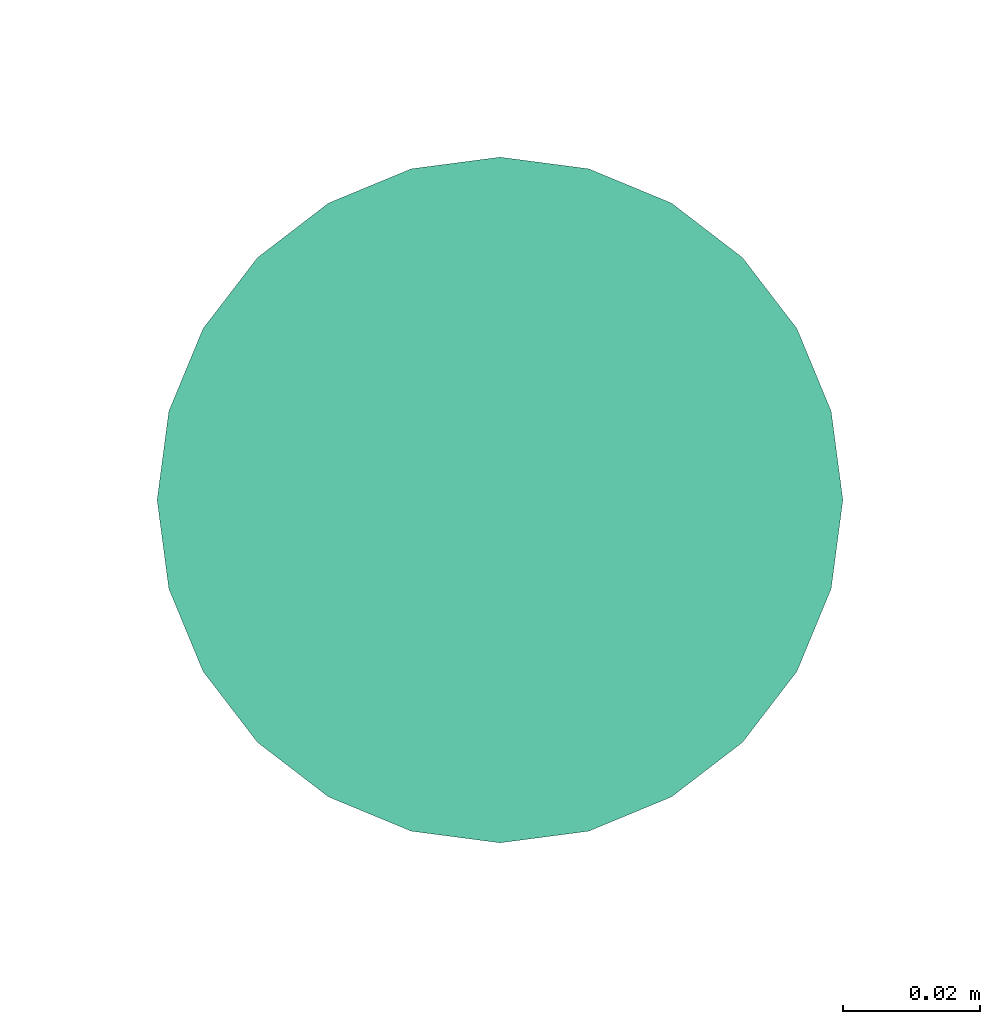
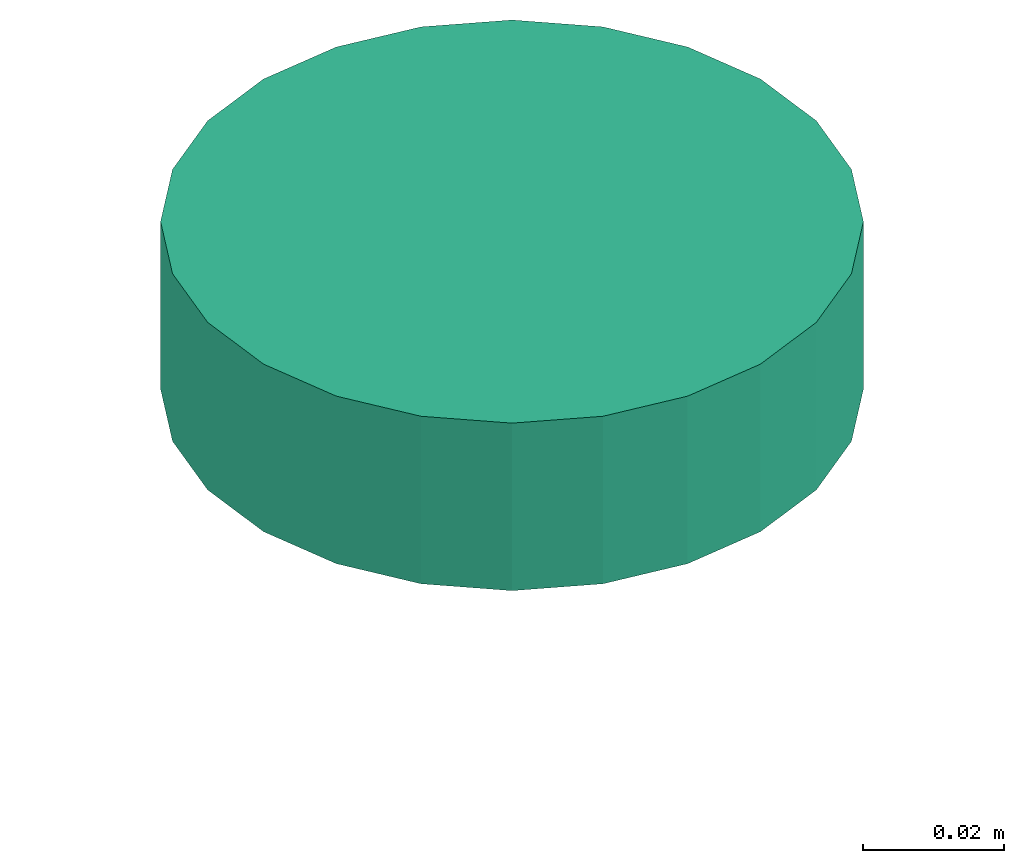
# One storey, part 24 of 51: 1 distribution control element.
"""IFC2X3 building model written with IfcOpenShell, lengths in millimetres."""

from ifc_helpers import new_model, entity, si_unit, converted_unit, derived_unit, direction, frame, origin_with_axes, place, context, subcontext, project, spatial, open_shell, surface_model, source, transform, mapped, type_object, element, save


model = new_model("IFC2X3")

# Units and contexts
model_context = context("Model", 3, precision=0.01, world=frame((0.0, 4.29681676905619e-09, 0.0)), true_north=direction((4.01073788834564e-13, 1.0)))
plan_context = context("Plan", 3, precision=0.01, world=frame((0.0, 4.29681676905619e-09, 0.0)), true_north=direction((4.01073788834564e-13, 1.0)))
body_context = subcontext(model_context, "Body", "Model", "MODEL_VIEW")
ifc_project = project(units=[converted_unit("PLANEANGLEUNIT", "DEGREE", entity("IfcPositiveLengthMeasure", 0.0174532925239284), si_unit("PLANEANGLEUNIT", "RADIAN"), dimensions=[0, 0, 0, 0, 0, 0, 0]), si_unit("AREAUNIT", "SQUARE_METRE"), si_unit("LENGTHUNIT", "METRE", prefix="MILLI"), si_unit("MASSUNIT", "GRAM", prefix="KILO"), si_unit("POWERUNIT", "WATT"), si_unit("PRESSUREUNIT", "PASCAL"), si_unit("FORCEUNIT", "NEWTON", prefix="KILO"), si_unit("ELECTRICVOLTAGEUNIT", "VOLT"), si_unit("ELECTRICCURRENTUNIT", "AMPERE"), si_unit("THERMODYNAMICTEMPERATUREUNIT", "DEGREE_CELSIUS"), si_unit("TIMEUNIT", "SECOND"), si_unit("VOLUMEUNIT", "CUBIC_METRE"), derived_unit("LINEARVELOCITYUNIT", [(si_unit("LENGTHUNIT", "METRE"), 1), (si_unit("TIMEUNIT", "SECOND"), -1)]), derived_unit("VOLUMETRICFLOWRATEUNIT", [(si_unit("VOLUMEUNIT", "CUBIC_METRE"), 1), (si_unit("TIMEUNIT", "SECOND"), -1)]), derived_unit("THERMALTRANSMITTANCEUNIT", [(si_unit("POWERUNIT", "WATT"), 1), (si_unit("THERMODYNAMICTEMPERATUREUNIT", "KELVIN"), -1), (si_unit("AREAUNIT", "SQUARE_METRE"), -1)]), derived_unit("SOUNDPRESSUREUNIT", [(si_unit("PRESSUREUNIT", "PASCAL"), 1)])], contexts=[model_context, plan_context])

# Site, building, storey
site_placement = place(None, frame((0.0, -4.29681676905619e-09, 0.0), z_axis=(0.0, 0.0, 1.0), x_axis=(1.0, 0.0, 0.0)))
site = spatial("IfcSite", under=ifc_project, at=site_placement, Name="ENGM", CompositionType="ELEMENT")
building_placement = place(site_placement, frame((0.0, 4.29681676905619e-09, 0.0), z_axis=(0.0, 0.0, 1.0), x_axis=(1.0, 0.0, 0.0)))
building = spatial("IfcBuilding", under=site, at=building_placement, Name="TI", CompositionType="ELEMENT")
storey_placement = place(building_placement, frame((0.0, 0.0, 210900.0), z_axis=(0.0, 0.0, 1.0), x_axis=(1.0, 0.0, 0.0)))
storey = spatial("IfcBuildingStorey", under=building, at=storey_placement, Name="Nivå F", CompositionType="ELEMENT", Elevation=210900.0)

# Distribution control element
alarm_type = type_object("IfcAlarmType", Name="Brannalarm Røykdetektor", PredefinedType="NOTDEFINED")
shared_shape = source(origin_with_axes(), body_context, "Body", "SurfaceModel", [
    surface_model("IfcShellBasedSurfaceModel", [(-25.0, 43.30127, -28.9), (-35.35534, 35.35534, -28.9), (-18.0, 31.17691, -28.9), (-25.45584, 25.45584, -28.9), (-9.31749, 34.77333, -28.9), (-12.94095, 48.29629, -28.9), (0.0, 36.0, -28.9), (0.0, 50.0, -28.9), (-34.77333, 9.31749, -28.9), (-43.30127, 25.0, -28.9), (-48.29629, 12.94095, -28.9), (-36.0, 0.0, -28.9), (-50.0, 0.0, -28.9), (-31.17691, 18.0, -28.9), (9.31749, 34.77333, -28.9), (12.94095, 48.29629, -28.9), (18.0, 31.17691, -28.9), (35.35534, 35.35534, -28.9), (25.0, 43.30127, -28.9), (25.45584, 25.45584, -28.9), (31.17691, 18.0, -28.9), (34.77333, 9.31749, -28.9), (43.30127, 25.0, -28.9), (48.29629, 12.94095, -28.9), (36.0, 0.0, -28.9), (50.0, 0.0, -28.9), (-34.77333, -9.31749, -28.9), (-48.29629, -12.94095, -28.9), (-31.17691, -18.0, -28.9), (-43.30127, -25.0, -28.9), (-25.45584, -25.45584, -28.9), (-35.35534, -35.35534, -28.9), (-18.0, -31.17691, -28.9), (-25.0, -43.30127, -28.9), (-9.31749, -34.77333, -28.9), (-12.94095, -48.29629, -28.9), (0.0, -36.0, -28.9), (0.0, -50.0, -28.9), (43.30127, -25.0, -28.9), (31.17691, -18.0, -28.9), (35.35534, -35.35534, -28.9), (34.77333, -9.31749, -28.9), (48.29629, -12.94095, -28.9), (25.45584, -25.45584, -28.9), (9.31749, -34.77333, -28.9), (12.94095, -48.29629, -28.9), (18.0, -31.17691, -28.9), (25.0, -43.30127, -28.9), (-25.0, -43.30127, -29.1), (-35.35534, -35.35534, -29.1), (-18.0, -31.17691, -29.1), (-25.45584, -25.45584, -29.1), (-9.31749, -34.77333, -29.1), (-12.94095, -48.29629, -29.1), (0.0, -36.0, -29.1), (0.0, -50.0, -29.1), (-34.77333, -9.31749, -29.1), (-43.30127, -25.0, -29.1), (-48.29629, -12.94095, -29.1), (-36.0, 0.0, -29.1), (-50.0, 0.0, -29.1), (-31.17691, -18.0, -29.1), (9.31749, -34.77333, -29.1), (12.94095, -48.29629, -29.1), (18.0, -31.17691, -29.1), (35.35534, -35.35534, -29.1), (25.0, -43.30127, -29.1), (25.45584, -25.45584, -29.1), (31.17691, -18.0, -29.1), (34.77333, -9.31749, -29.1), (43.30127, -25.0, -29.1), (48.29629, -12.94095, -29.1), (36.0, 0.0, -29.1), (50.0, 0.0, -29.1), (-34.77333, 9.31749, -29.1), (-48.29629, 12.94095, -29.1), (-31.17691, 18.0, -29.1), (-43.30127, 25.0, -29.1), (-25.45584, 25.45584, -29.1), (-35.35534, 35.35534, -29.1), (-18.0, 31.17691, -29.1), (-25.0, 43.30127, -29.1), (-9.31749, 34.77333, -29.1), (-12.94095, 48.29629, -29.1), (0.0, 36.0, -29.1), (0.0, 50.0, -29.1), (43.30127, 25.0, -29.1), (31.17691, 18.0, -29.1), (35.35534, 35.35534, -29.1), (34.77333, 9.31749, -29.1), (48.29629, 12.94095, -29.1), (25.45584, 25.45584, -29.1), (9.31749, 34.77333, -29.1), (12.94095, 48.29629, -29.1), (18.0, 31.17691, -29.1), (25.0, 43.30127, -29.1), (6.47048, -24.14815, -44.9), (12.5, -21.65064, -44.9), (17.67767, -17.67767, -44.9), (24.14815, -6.47048, -44.9), (-24.14815, -6.47048, -44.9), (21.65064, -12.5, -44.9), (-21.65064, 12.5, -44.9), (0.0, -25.0, -44.9), (-12.5, -21.65064, -44.9), (-6.47048, -24.14815, -44.9), (-17.67767, -17.67767, -44.9), (-21.65064, -12.5, -44.9), (25.0, 0.0, -44.9), (24.14815, 6.47048, -44.9), (21.65064, 12.5, -44.9), (17.67767, 17.67767, -44.9), (12.5, 21.65064, -44.9), (6.47048, 24.14815, -44.9), (0.0, 25.0, -44.9), (-25.0, 0.0, -44.9), (-24.14815, 6.47048, -44.9), (-12.5, 21.65064, -44.9), (-17.67767, 17.67767, -44.9), (-6.47048, 24.14815, -44.9), (0.0, 25.0, -45.1), (6.47048, 24.14815, -45.1), (12.5, 21.65064, -45.1), (-21.65064, 12.5, -45.1), (17.67767, 17.67767, -45.1), (21.65064, 12.5, -45.1), (24.14815, 6.47048, -45.1), (-12.5, 21.65064, -45.1), (-17.67767, 17.67767, -45.1), (-6.47048, 24.14815, -45.1), (-25.0, 0.0, -45.1), (-24.14815, 6.47048, -45.1), (-24.14815, -6.47048, -45.1), (24.14815, -6.47048, -45.1), (6.47048, -24.14815, -45.1), (21.65064, -12.5, -45.1), (17.67767, -17.67767, -45.1), (12.5, -21.65064, -45.1), (-12.5, -21.65064, -45.1), (-17.67767, -17.67767, -45.1), (-21.65064, -12.5, -45.1), (0.0, -25.0, -45.1), (-6.47048, -24.14815, -45.1), (25.0, 0.0, -45.1), (-1.46739, 34.60682, -29.0), (0.0, 34.8, -29.0), (0.0, 35.0, -29.0), (-34.60682, 1.46739, -29.0), (-35.0, 0.0, -29.0), (-34.8, 0.0, -29.0), (-17.5, 30.31089, -29.0), (-18.5742, 29.23669, -29.0), (-17.4, 30.13768, -29.0), (-24.60732, -24.60732, -29.0), (-18.5742, -29.23669, -29.0), (-29.23669, -18.5742, -29.0), (34.8, 0.0, -29.0), (34.60682, -1.46739, -29.0), (35.0, 0.0, -29.0), (17.4, 30.13768, -29.0), (17.5, 30.31089, -29.0), (16.03261, 30.70407, -29.0), (30.13768, 17.4, -29.0), (30.31089, 17.5, -29.0), (29.23669, 18.5742, -29.0), (34.60682, 1.46739, -29.0), (33.61422, -9.0069, -29.0), (30.70407, -16.03261, -29.0), (-33.61422, -9.0069, -29.0), (-30.70407, -16.03261, -29.0), (-34.60682, -1.46739, -29.0), (-30.13768, -17.4, -29.0), (-30.31089, -17.5, -29.0), (-17.5, -30.31089, -29.0), (-17.4, -30.13768, -29.0), (-1.46739, -34.60682, -29.0), (0.0, -35.0, -29.0), (0.0, -34.8, -29.0), (-16.03261, -30.70407, -29.0), (-9.0069, -33.61422, -29.0), (1.46739, -34.60682, -29.0), (30.13768, -17.4, -29.0), (29.23669, -18.5742, -29.0), (30.31089, -17.5, -29.0), (24.60732, -24.60732, -29.0), (18.5742, -29.23669, -29.0), (9.0069, -33.61422, -29.0), (16.03261, -30.70407, -29.0), (-30.13768, 17.4, -29.0), (-30.31089, 17.5, -29.0), (-30.70407, 16.03261, -29.0), (17.4, -30.13768, -29.0), (17.5, -30.31089, -29.0), (-33.61422, 9.0069, -29.0), (-29.23669, 18.5742, -29.0), (-24.60732, 24.60732, -29.0), (-16.03261, 30.70407, -29.0), (-9.0069, 33.61422, -29.0), (1.46739, 34.60682, -29.0), (9.0069, 33.61422, -29.0), (18.5742, 29.23669, -29.0), (24.60732, 24.60732, -29.0), (30.70407, 16.03261, -29.0), (33.61422, 9.0069, -29.0), (23.00389, 18.55381, -38.25), (14.9, 25.80756, -38.25), (21.07178, 21.07178, -38.25), (29.66376, 1.03484, -38.25), (30.0, 0.0, -38.25), (29.8, 0.0, -38.25), (24.27051, 17.63356, -38.25), (24.68215, 16.36666, -38.25), (10.52665, 27.61906, -38.25), (28.78459, 7.71281, -38.25), (-10.52665, 27.61906, -38.25), (-23.00389, 18.55381, -38.25), (-14.9, 25.80756, -38.25), (8.32335, 28.5317, -38.25), (0.0, 29.8, -38.25), (7.71281, 28.78459, -38.25), (-8.32335, 28.5317, -38.25), (-24.68215, 16.36666, -38.25), (-28.78459, 7.71281, -38.25), (-25.80756, 14.9, -38.25), (-9.27051, 28.5317, -38.25), (-29.66376, 1.03484, -38.25), (-29.8, 0.0, -38.25), (-30.0, 0.0, -38.25), (-28.78459, -7.71281, -38.25), (-24.68215, -16.36666, -38.25), (-25.80756, -14.9, -38.25), (29.66376, -1.03484, -38.25), (-7.71281, 28.78459, -38.25), (25.80756, 14.9, -38.25), (14.9, -25.80756, -38.25), (10.52665, -27.61906, -38.25), (23.00389, -18.55381, -38.25), (28.78459, -7.71281, -38.25), (24.68215, -16.36666, -38.25), (0.0, -29.8, -38.25), (-7.71281, -28.78459, -38.25), (-8.32335, -28.5317, -38.25), (8.32335, -28.5317, -38.25), (9.27051, 28.5317, -38.25), (-29.66376, -1.03484, -38.25), (21.07178, -21.07178, -38.25), (-23.00389, -18.55381, -38.25), (-24.27051, -17.63356, -38.25), (-9.27051, -28.5317, -38.25), (-10.52665, -27.61906, -38.25), (-21.07178, -21.07178, -38.25), (-14.9, -25.80756, -38.25), (9.27051, -28.5317, -38.25), (7.71281, -28.78459, -38.25), (24.27051, -17.63356, -38.25), (25.80756, -14.9, -38.25), (-21.07178, 21.07178, -38.25), (-24.27051, 17.63356, -38.25), (33.28589, -6.39713, -29.0), (27.13526, -8.81678, -38.25), (-16.77051, -23.08263, -38.25), (-23.90544, -23.90544, -29.0), (-27.13526, -8.81678, -38.25), (-33.28589, -6.39713, -29.0), (16.77051, -23.08263, -38.25), (8.75, -32.65544, -29.0), (0.0, -28.5317, -38.25), (23.90544, -23.90544, -29.0), (-8.75, -32.65544, -29.0), (-33.28589, 6.39713, -29.0), (-27.13526, 8.81678, -38.25), (16.77051, 23.08263, -38.25), (23.90544, 23.90544, -29.0), (27.13526, 8.81678, -38.25), (33.28589, 6.39713, -29.0), (-16.77051, 23.08263, -38.25), (-8.75, 32.65544, -29.0), (0.0, 28.5317, -38.25), (-23.90544, 23.90544, -29.0), (8.75, 32.65544, -29.0), (12.4, 21.47743, -45.0), (17.53625, 17.53625, -45.0), (19.07577, 15.5299, -45.0), (20.22543, 14.69463, -45.0), (20.59905, 13.54472, -45.0), (24.66376, 1.03484, -45.0), (25.0, 0.0, -45.0), (24.8, 0.0, -45.0), (8.88673, 22.93267, -45.0), (23.95496, 6.41871, -45.0), (-8.88673, 22.93267, -45.0), (-19.07577, 15.5299, -45.0), (-12.4, 21.47743, -45.0), (6.84976, 23.77641, -45.0), (0.0, 24.8, -45.0), (6.41871, 23.95496, -45.0), (-7.72542, 23.77641, -45.0), (-6.84976, 23.77641, -45.0), (-21.47743, 12.4, -45.0), (-20.59905, 13.54472, -45.0), (-23.95496, 6.41871, -45.0), (-25.0, 0.0, -45.0), (-24.66376, 1.03484, -45.0), (-24.8, 0.0, -45.0), (-23.95496, -6.41871, -45.0), (-20.59905, -13.54472, -45.0), (-21.47743, -12.4, -45.0), (-6.41871, 23.95496, -45.0), (24.66376, -1.03484, -45.0), (21.47743, 12.4, -45.0), (12.4, -21.47743, -45.0), (8.88673, -22.93267, -45.0), (19.07577, -15.5299, -45.0), (23.95496, -6.41871, -45.0), (20.59905, -13.54472, -45.0), (0.0, -24.8, -45.0), (-6.41871, -23.95496, -45.0), (-6.84976, -23.77641, -45.0), (7.72542, -23.77641, -45.0), (6.84976, -23.77641, -45.0), (7.72542, 23.77641, -45.0), (-24.66376, -1.03484, -45.0), (17.53625, -17.53625, -45.0), (-20.22543, -14.69463, -45.0), (-19.07577, -15.5299, -45.0), (-8.88673, -22.93267, -45.0), (-7.72542, -23.77641, -45.0), (-17.53625, -17.53625, -45.0), (-12.4, -21.47743, -45.0), (6.41871, -23.95496, -45.0), (20.22543, -14.69463, -45.0), (21.47743, -12.4, -45.0), (-17.53625, 17.53625, -45.0), (-20.22543, 14.69463, -45.0), (-22.61271, -7.34732, -45.0), (-13.97542, -19.23552, -45.0), (0.0, -23.77641, -45.0), (21.83768, -9.73262, -45.0), (13.97542, -19.23552, -45.0), (23.41884, -4.86631, -45.0), (22.61271, 7.34732, -45.0), (13.97542, 19.23552, -45.0), (0.0, 23.77641, -45.0), (-21.83768, 9.73262, -45.0), (-13.97542, 19.23552, -45.0), (-23.41884, 4.86631, -45.0), (12.94095, -48.29629, 0.0), (25.0, -43.30127, 0.0), (35.35534, -35.35534, 0.0), (48.29629, -12.94095, 0.0), (-48.29629, -12.94095, 0.0), (43.30127, -25.0, 0.0), (-43.30127, 25.0, 0.0), (0.0, -50.0, 0.0), (-25.0, -43.30127, 0.0), (-12.94095, -48.29629, 0.0), (-35.35534, -35.35534, 0.0), (-43.30127, -25.0, 0.0), (50.0, 0.0, 0.0), (48.29629, 12.94095, 0.0), (43.30127, 25.0, 0.0), (35.35534, 35.35534, 0.0), (25.0, 43.30127, 0.0), (12.94095, 48.29629, 0.0), (0.0, 50.0, 0.0), (-50.0, 0.0, 0.0), (-48.29629, 12.94095, 0.0), (-25.0, 43.30127, 0.0), (-35.35534, 35.35534, 0.0), (-12.94095, 48.29629, 0.0), (0.0, 50.0, -29.0), (12.94095, 48.29629, -29.0), (25.0, 43.30127, -29.0), (-43.30127, 25.0, -29.0), (35.35534, 35.35534, -29.0), (43.30127, 25.0, -29.0), (48.29629, 12.94095, -29.0), (-25.0, 43.30127, -29.0), (-35.35534, 35.35534, -29.0), (-12.94095, 48.29629, -29.0), (-50.0, 0.0, -29.0), (-48.29629, 12.94095, -29.0), (-48.29629, -12.94095, -29.0), (48.29629, -12.94095, -29.0), (12.94095, -48.29629, -29.0), (43.30127, -25.0, -29.0), (35.35534, -35.35534, -29.0), (25.0, -43.30127, -29.0), (-25.0, -43.30127, -29.0), (-35.35534, -35.35534, -29.0), (-43.30127, -25.0, -29.0), (0.0, -50.0, -29.0), (-12.94095, -48.29629, -29.0), (50.0, 0.0, -29.0)], [open_shell([[[0, 1, 2]], [[2, 1, 3]], [[0, 2, 4]], [[5, 4, 6]], [[4, 5, 0]], [[5, 6, 7]], [[8, 9, 10]], [[11, 10, 12]], [[8, 10, 11]], [[13, 3, 9]], [[8, 13, 9]], [[9, 3, 1]], [[7, 14, 15]], [[14, 7, 6]], [[15, 14, 16]], [[17, 18, 19]], [[16, 18, 15]], [[19, 18, 16]], [[20, 21, 22]], [[20, 22, 17]], [[21, 23, 22]], [[23, 21, 24]], [[23, 24, 25]], [[20, 17, 19]], [[26, 12, 27]], [[28, 27, 29]], [[28, 26, 27]], [[30, 28, 29]], [[29, 31, 30]], [[32, 31, 33]], [[31, 32, 30]], [[32, 33, 34]], [[34, 35, 36]], [[35, 34, 33]], [[36, 35, 37]], [[38, 39, 40]], [[41, 39, 42]], [[41, 42, 25]], [[42, 39, 38]], [[39, 43, 40]], [[25, 24, 41]], [[44, 37, 45]], [[37, 44, 36]], [[44, 45, 46]], [[47, 40, 43]], [[47, 46, 45]], [[47, 43, 46]], [[26, 11, 12]], [[48, 49, 50]], [[50, 49, 51]], [[48, 50, 52]], [[53, 52, 54]], [[52, 53, 48]], [[53, 54, 55]], [[56, 57, 58]], [[59, 58, 60]], [[56, 58, 59]], [[61, 51, 57]], [[56, 61, 57]], [[57, 51, 49]], [[55, 62, 63]], [[62, 55, 54]], [[63, 62, 64]], [[65, 66, 67]], [[64, 66, 63]], [[67, 66, 64]], [[68, 69, 70]], [[68, 70, 65]], [[69, 71, 70]], [[71, 69, 72]], [[71, 72, 73]], [[68, 65, 67]], [[74, 60, 75]], [[76, 75, 77]], [[76, 74, 75]], [[78, 76, 77]], [[77, 79, 78]], [[80, 79, 81]], [[79, 80, 78]], [[80, 81, 82]], [[82, 83, 84]], [[83, 82, 81]], [[84, 83, 85]], [[86, 87, 88]], [[89, 87, 90]], [[89, 90, 73]], [[90, 87, 86]], [[87, 91, 88]], [[73, 72, 89]], [[92, 85, 93]], [[85, 92, 84]], [[92, 93, 94]], [[95, 88, 91]], [[95, 94, 93]], [[95, 91, 94]], [[74, 59, 60]], [[11, 59, 8]], [[8, 74, 13]], [[2, 3, 78]], [[76, 3, 13]], [[4, 2, 80]], [[74, 76, 13]], [[8, 59, 74]], [[84, 6, 82]], [[4, 80, 82]], [[80, 2, 78]], [[3, 76, 78]], [[4, 82, 6]], [[14, 92, 16]], [[16, 94, 19]], [[21, 20, 87]], [[91, 20, 19]], [[24, 21, 89]], [[92, 94, 16]], [[14, 84, 92]], [[21, 87, 89]], [[87, 20, 91]], [[19, 94, 91]], [[24, 89, 72]], [[6, 84, 14]], [[24, 72, 41]], [[41, 69, 39]], [[46, 43, 67]], [[68, 43, 39]], [[44, 46, 64]], [[69, 68, 39]], [[41, 72, 69]], [[54, 36, 62]], [[44, 64, 62]], [[64, 46, 67]], [[43, 68, 67]], [[44, 62, 36]], [[34, 52, 32]], [[32, 50, 30]], [[26, 28, 61]], [[51, 28, 30]], [[11, 26, 56]], [[52, 50, 32]], [[34, 54, 52]], [[26, 61, 56]], [[61, 28, 51]], [[30, 50, 51]], [[11, 56, 59]], [[36, 54, 34]], [[58, 27, 60]], [[57, 29, 58]], [[33, 49, 48]], [[57, 49, 31]], [[35, 48, 53]], [[58, 29, 27]], [[27, 12, 60]], [[35, 33, 48]], [[31, 49, 33]], [[31, 29, 57]], [[37, 35, 53]], [[53, 55, 37]], [[63, 45, 55]], [[66, 47, 63]], [[38, 65, 70]], [[66, 65, 40]], [[42, 70, 71]], [[66, 40, 47]], [[47, 45, 63]], [[25, 42, 71]], [[38, 70, 42]], [[38, 40, 65]], [[73, 25, 71]], [[55, 45, 37]], [[90, 23, 73]], [[86, 22, 90]], [[18, 88, 95]], [[86, 88, 17]], [[15, 95, 93]], [[90, 22, 23]], [[23, 25, 73]], [[15, 18, 95]], [[17, 88, 18]], [[17, 22, 86]], [[7, 15, 93]], [[93, 85, 7]], [[83, 5, 85]], [[81, 0, 83]], [[9, 79, 77]], [[81, 79, 1]], [[10, 77, 75]], [[81, 1, 0]], [[0, 5, 83]], [[12, 10, 75]], [[9, 77, 10]], [[9, 1, 79]], [[60, 12, 75]], [[85, 5, 7]], [[96, 97, 98]], [[96, 98, 99]], [[96, 99, 100]], [[99, 98, 101]], [[102, 100, 99]], [[103, 104, 105]], [[103, 96, 104]], [[106, 100, 107]], [[106, 104, 96]], [[100, 106, 96]], [[99, 108, 102]], [[109, 110, 111]], [[109, 111, 112]], [[112, 113, 114]], [[109, 112, 102]], [[102, 112, 114]], [[115, 102, 116]], [[100, 102, 115]], [[102, 117, 118]], [[117, 102, 119]], [[114, 119, 102]], [[102, 108, 109]], [[120, 121, 122]], [[123, 120, 122]], [[124, 125, 126]], [[124, 126, 122]], [[123, 122, 126]], [[127, 123, 128]], [[123, 127, 129]], [[123, 130, 131]], [[123, 129, 120]], [[123, 132, 130]], [[123, 126, 133]], [[132, 123, 133]], [[134, 133, 135]], [[136, 137, 134]], [[136, 134, 135]], [[138, 133, 134]], [[132, 139, 140]], [[132, 133, 139]], [[138, 141, 142]], [[139, 133, 138]], [[134, 141, 138]], [[133, 126, 143]], [[132, 100, 130]], [[140, 107, 132]], [[104, 139, 138]], [[140, 139, 106]], [[105, 138, 142]], [[132, 107, 100]], [[100, 115, 130]], [[105, 104, 138]], [[106, 139, 104]], [[106, 107, 140]], [[103, 105, 142]], [[142, 141, 103]], [[134, 96, 141]], [[137, 97, 134]], [[101, 136, 135]], [[137, 136, 98]], [[99, 135, 133]], [[137, 98, 97]], [[97, 96, 134]], [[108, 99, 133]], [[101, 135, 99]], [[101, 98, 136]], [[143, 108, 133]], [[141, 96, 103]], [[126, 109, 143]], [[125, 110, 126]], [[112, 124, 122]], [[125, 124, 111]], [[113, 122, 121]], [[126, 110, 109]], [[109, 108, 143]], [[113, 112, 122]], [[111, 124, 112]], [[111, 110, 125]], [[114, 113, 121]], [[121, 120, 114]], [[129, 119, 120]], [[127, 117, 129]], [[102, 128, 123]], [[127, 128, 118]], [[116, 123, 131]], [[127, 118, 117]], [[117, 119, 129]], [[115, 116, 131]], [[102, 123, 116]], [[102, 118, 128]], [[130, 115, 131]], [[120, 119, 114]], [[144, 145, 146]], [[147, 148, 149]], [[150, 151, 152]], [[153, 154, 155]], [[156, 157, 158]], [[159, 160, 161]], [[162, 163, 164]], [[156, 158, 165]], [[166, 157, 167]], [[168, 169, 170]], [[170, 149, 148]], [[171, 169, 172]], [[173, 174, 154]], [[175, 176, 177]], [[174, 173, 178]], [[155, 171, 172]], [[179, 175, 178]], [[180, 177, 176]], [[181, 182, 183]], [[181, 183, 167]], [[184, 182, 185]], [[186, 187, 180]], [[188, 189, 190]], [[191, 192, 185]], [[191, 187, 192]], [[193, 147, 190]], [[188, 194, 189]], [[195, 194, 151]], [[152, 196, 150]], [[197, 196, 144]], [[145, 198, 146]], [[199, 198, 161]], [[159, 200, 160]], [[201, 200, 164]], [[162, 202, 163]], [[203, 202, 165]], [[204, 205, 206]], [[207, 208, 209]], [[204, 210, 211]], [[205, 204, 212]], [[213, 207, 211]], [[214, 215, 216]], [[217, 218, 219]], [[218, 217, 220]], [[221, 222, 223]], [[220, 214, 224]], [[225, 226, 227]], [[228, 229, 230]], [[209, 208, 231]], [[218, 220, 232]], [[213, 211, 233]], [[234, 235, 236]], [[237, 238, 231]], [[239, 240, 241]], [[241, 242, 239]], [[243, 212, 217]], [[227, 226, 244]], [[234, 236, 245]], [[229, 246, 247]], [[241, 248, 249]], [[250, 246, 251]], [[228, 244, 229]], [[235, 252, 242]], [[239, 242, 253]], [[236, 238, 254]], [[238, 237, 255]], [[251, 246, 249]], [[216, 215, 256]], [[215, 221, 257]], [[222, 221, 225]], [[208, 158, 258]], [[183, 259, 258]], [[260, 261, 247]], [[172, 262, 247]], [[263, 227, 262]], [[192, 252, 264]], [[260, 248, 173]], [[261, 260, 173]], [[252, 265, 266]], [[227, 263, 148]], [[172, 263, 262]], [[258, 259, 208]], [[254, 267, 264]], [[268, 173, 248]], [[252, 192, 265]], [[192, 264, 267]], [[267, 254, 183]], [[259, 183, 254]], [[268, 266, 176]], [[265, 176, 266]], [[248, 266, 268]], [[172, 247, 261]], [[227, 148, 269]], [[189, 270, 269]], [[271, 272, 210]], [[163, 273, 210]], [[274, 208, 273]], [[150, 224, 275]], [[271, 243, 160]], [[272, 271, 160]], [[224, 276, 277]], [[208, 274, 158]], [[163, 274, 273]], [[269, 270, 227]], [[257, 278, 275]], [[279, 160, 243]], [[224, 150, 276]], [[150, 275, 278]], [[278, 257, 189]], [[270, 189, 257]], [[279, 277, 146]], [[276, 146, 277]], [[243, 277, 279]], [[163, 210, 272]], [[171, 230, 228]], [[168, 228, 226]], [[179, 240, 251]], [[174, 251, 250]], [[153, 250, 230]], [[168, 171, 228]], [[226, 149, 168]], [[251, 174, 179]], [[174, 250, 153]], [[230, 171, 153]], [[240, 179, 177]], [[177, 239, 240]], [[184, 245, 234]], [[191, 234, 253]], [[156, 209, 237]], [[166, 237, 255]], [[181, 255, 245]], [[239, 186, 253]], [[186, 191, 253]], [[177, 186, 239]], [[184, 181, 245]], [[191, 184, 234]], [[181, 166, 255]], [[166, 156, 237]], [[162, 233, 213]], [[203, 213, 209]], [[199, 219, 205]], [[159, 205, 206]], [[201, 206, 233]], [[203, 162, 213]], [[209, 156, 203]], [[205, 159, 199]], [[159, 206, 201]], [[233, 162, 201]], [[219, 199, 145]], [[145, 218, 219]], [[195, 256, 216]], [[152, 216, 232]], [[149, 226, 222]], [[193, 222, 223]], [[188, 223, 256]], [[218, 197, 232]], [[197, 152, 232]], [[145, 197, 218]], [[195, 188, 256]], [[152, 195, 216]], [[188, 193, 223]], [[193, 149, 222]], [[215, 216, 256]], [[221, 222, 225]], [[225, 227, 226]], [[257, 221, 215]], [[216, 215, 214]], [[212, 204, 205]], [[220, 218, 232]], [[218, 220, 217]], [[217, 212, 243]], [[233, 211, 213]], [[208, 207, 209]], [[237, 238, 255]], [[252, 235, 242]], [[218, 217, 219]], [[227, 244, 226]], [[222, 221, 223]], [[228, 229, 244]], [[239, 253, 242]], [[246, 251, 249]], [[249, 248, 241]], [[231, 238, 237]], [[208, 209, 231]], [[251, 246, 250]], [[254, 238, 236]], [[236, 234, 245]], [[214, 220, 224]], [[242, 241, 239]], [[239, 241, 240]], [[246, 229, 247]], [[230, 229, 228]], [[234, 236, 235]], [[205, 204, 206]], [[204, 211, 210]], [[213, 211, 207]], [[280, 281, 282]], [[282, 283, 284]], [[285, 286, 287]], [[280, 282, 288]], [[289, 285, 284]], [[290, 291, 292]], [[293, 294, 295]], [[290, 296, 297]], [[294, 293, 297]], [[298, 299, 300]], [[301, 302, 303]], [[304, 305, 306]], [[294, 297, 307]], [[308, 287, 286]], [[289, 284, 309]], [[310, 311, 312]], [[313, 314, 308]], [[315, 316, 317]], [[311, 318, 319]], [[293, 320, 288]], [[301, 303, 321]], [[310, 312, 322]], [[323, 305, 324]], [[325, 317, 326]], [[327, 324, 328]], [[304, 321, 305]], [[317, 319, 315]], [[315, 319, 329]], [[312, 314, 330]], [[331, 314, 313]], [[328, 324, 325]], [[292, 291, 332]], [[291, 299, 333]], [[300, 299, 302]], [[262, 301, 334]], [[334, 323, 247]], [[248, 335, 326]], [[301, 262, 227]], [[334, 247, 262]], [[260, 323, 335]], [[266, 248, 326]], [[336, 252, 266]], [[252, 336, 318]], [[323, 260, 247]], [[248, 260, 335]], [[254, 337, 259]], [[318, 264, 252]], [[338, 254, 264]], [[339, 286, 208]], [[264, 318, 338]], [[259, 339, 208]], [[338, 330, 254]], [[266, 326, 336]], [[259, 337, 339]], [[337, 254, 330]], [[273, 286, 340]], [[340, 283, 210]], [[243, 341, 320]], [[286, 273, 208]], [[340, 210, 273]], [[271, 283, 341]], [[277, 243, 320]], [[342, 224, 277]], [[224, 342, 296]], [[283, 271, 210]], [[243, 271, 341]], [[257, 343, 270]], [[296, 275, 224]], [[344, 257, 275]], [[345, 301, 227]], [[275, 296, 344]], [[270, 345, 227]], [[344, 333, 257]], [[277, 320, 342]], [[270, 343, 345]], [[343, 257, 333]], [[230, 306, 304]], [[228, 304, 303]], [[240, 316, 328]], [[251, 328, 327]], [[250, 327, 306]], [[228, 230, 304]], [[303, 226, 228]], [[328, 251, 240]], [[251, 327, 250]], [[306, 230, 250]], [[316, 240, 239]], [[239, 315, 316]], [[245, 322, 310]], [[234, 310, 329]], [[209, 287, 313]], [[237, 313, 331]], [[255, 331, 322]], [[315, 253, 329]], [[253, 234, 329]], [[239, 253, 315]], [[255, 322, 245]], [[234, 245, 310]], [[331, 255, 237]], [[237, 209, 313]], [[233, 309, 289]], [[213, 289, 287]], [[219, 295, 280]], [[205, 280, 281]], [[206, 281, 309]], [[213, 233, 289]], [[287, 209, 213]], [[280, 205, 219]], [[205, 281, 206]], [[309, 233, 206]], [[295, 219, 218]], [[218, 294, 295]], [[256, 332, 292]], [[216, 292, 307]], [[226, 303, 300]], [[222, 300, 298]], [[223, 298, 332]], [[294, 232, 307]], [[232, 216, 307]], [[218, 232, 294]], [[223, 332, 256]], [[216, 256, 292]], [[298, 223, 222]], [[222, 226, 300]], [[346, 347, 348]], [[346, 348, 349]], [[346, 349, 350]], [[349, 348, 351]], [[352, 350, 349]], [[353, 354, 355]], [[353, 346, 354]], [[356, 350, 357]], [[356, 354, 346]], [[350, 356, 346]], [[349, 358, 352]], [[359, 360, 361]], [[359, 361, 362]], [[362, 363, 364]], [[359, 362, 352]], [[352, 362, 364]], [[365, 352, 366]], [[350, 352, 365]], [[352, 367, 368]], [[367, 352, 369]], [[364, 369, 352]], [[352, 358, 359]], [[370, 371, 372]], [[373, 370, 372]], [[374, 375, 376]], [[374, 376, 372]], [[373, 372, 376]], [[377, 373, 378]], [[373, 377, 379]], [[373, 380, 381]], [[373, 379, 370]], [[373, 382, 380]], [[373, 376, 383]], [[382, 373, 383]], [[384, 383, 385]], [[386, 387, 384]], [[386, 384, 385]], [[388, 383, 384]], [[382, 389, 390]], [[382, 383, 389]], [[388, 391, 392]], [[389, 383, 388]], [[384, 391, 388]], [[383, 376, 393]], [[382, 350, 380]], [[390, 357, 382]], [[354, 389, 388]], [[390, 389, 356]], [[355, 388, 392]], [[382, 357, 350]], [[350, 365, 380]], [[355, 354, 388]], [[356, 389, 354]], [[356, 357, 390]], [[353, 355, 392]], [[392, 391, 353]], [[384, 346, 391]], [[387, 347, 384]], [[351, 386, 385]], [[387, 386, 348]], [[349, 385, 383]], [[387, 348, 347]], [[347, 346, 384]], [[358, 349, 383]], [[351, 385, 349]], [[351, 348, 386]], [[393, 358, 383]], [[391, 346, 353]], [[376, 359, 393]], [[375, 360, 376]], [[362, 374, 372]], [[375, 374, 361]], [[363, 372, 371]], [[376, 360, 359]], [[359, 358, 393]], [[363, 362, 372]], [[361, 374, 362]], [[361, 360, 375]], [[364, 363, 371]], [[371, 370, 364]], [[369, 370, 379]], [[367, 379, 377]], [[352, 373, 381]], [[366, 381, 380]], [[379, 367, 369]], [[367, 377, 378]], [[367, 378, 368]], [[368, 378, 352]], [[352, 378, 373]], [[352, 381, 366]], [[380, 365, 366]], [[370, 369, 364]]])]),
])
distribution_control_element_placement = place(storey_placement, frame((610768.95177, 698240.9801, 2570.0), z_axis=(0.0, 0.0, 1.0), x_axis=(1.0, 0.0, 0.0)))
element("IfcDistributionControlElement", 1, at=distribution_control_element_placement, inside=storey, type_object=alarm_type, Name="Brannalarm Røykdetektor", context=body_context, shape_type="MappedRepresentation", body=[
    mapped(shared_shape, transform((0.0, 0.0, 0.0), scale=1.0)),
])

save(model, "model.ifc")
